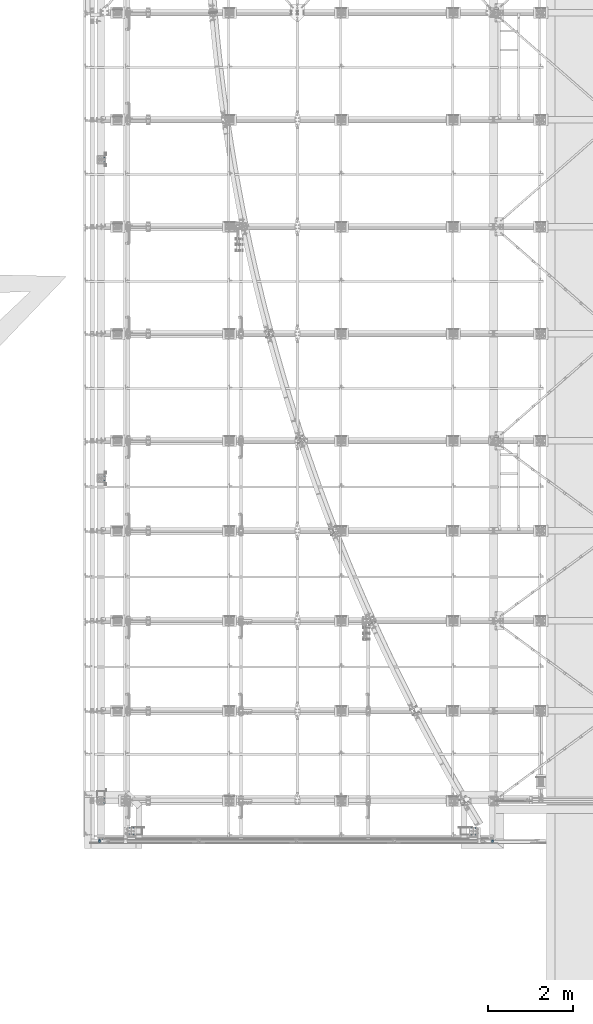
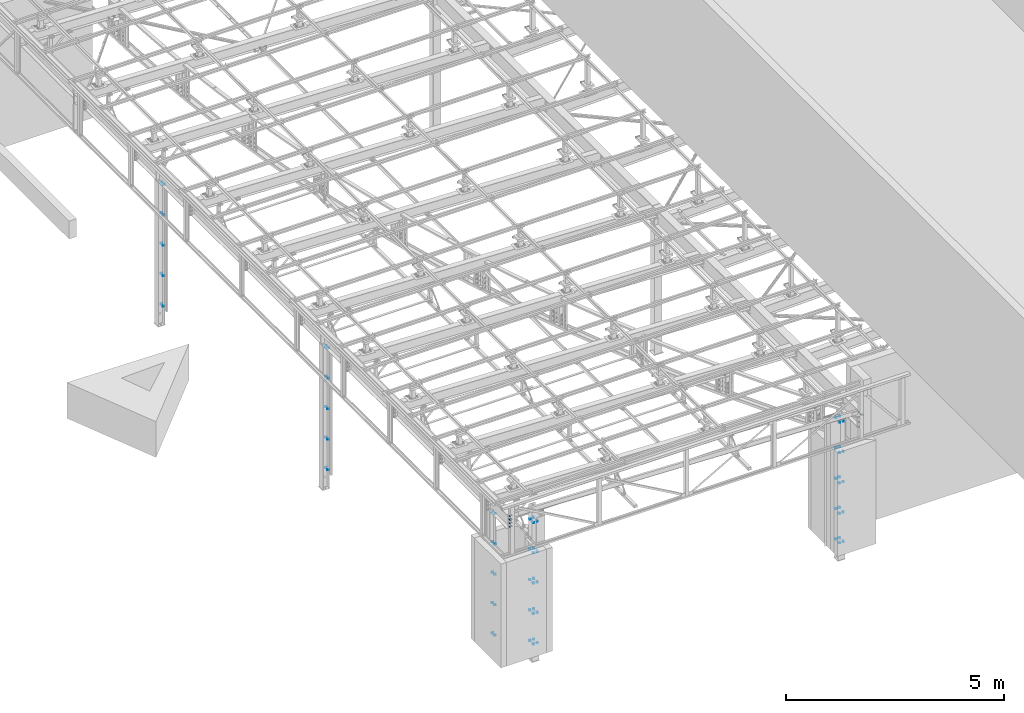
# One storey, part 1 of 3134: 8 mechanical fasteners, 2 plates, 6 elements without a shape of their own.
"""IFC2X3 building model written with IfcOpenShell, lengths in millimetres."""

from ifc_helpers import new_model, si_unit, frame, origin_with_axes, place, context, subcontext, project, spatial, faceted_brep, source, transform, mapped, material, type_object, element, aggregate, save


model = new_model("IFC2X3")

# Units and contexts
model_context = context("Model", 3, precision=1e-05, world=origin_with_axes())
body_context = subcontext(model_context, "Body", "Model", "MODEL_VIEW")
ifc_project = project(units=[si_unit("LENGTHUNIT", "METRE", prefix="MILLI"), si_unit("AREAUNIT", "SQUARE_METRE"), si_unit("VOLUMEUNIT", "CUBIC_METRE"), si_unit("MASSUNIT", "GRAM", prefix="KILO"), si_unit("TIMEUNIT", "SECOND"), si_unit("PLANEANGLEUNIT", "RADIAN"), si_unit("SOLIDANGLEUNIT", "STERADIAN"), si_unit("THERMODYNAMICTEMPERATUREUNIT", "DEGREE_CELSIUS"), si_unit("LUMINOUSINTENSITYUNIT", "LUMEN")], contexts=[model_context])

# Site, building, storey
site_placement = place(None, origin_with_axes())
site = spatial("IfcSite", under=ifc_project, at=site_placement, CompositionType="ELEMENT")
building_placement = place(site_placement, origin_with_axes())
building = spatial("IfcBuilding", under=site, at=building_placement, Name="Undefined", CompositionType="ELEMENT")
storey_placement = place(building_placement, origin_with_axes())
storey = spatial("IfcBuildingStorey", under=building, at=storey_placement, Name="Undefined", CompositionType="ELEMENT", Elevation=0.0)

# Assembly, plates
assembly_1_placement = place(storey_placement, origin_with_axes())
assembly_1 = element("IfcElementAssembly", 1, at=assembly_1_placement, inside=storey, Name="UPN100", AssemblyPlace="NOTDEFINED", PredefinedType="RIGID_FRAME")
ifc_material_1 = material(Name="STEEL/S235JR")
plate_type = type_object("IfcPlateType", Name="PL8*45", PredefinedType="NOTDEFINED")
plate_1_placement = place(assembly_1_placement, frame((-2.50000000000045, 10017.5, 3920.0), z_axis=(-1.0, 0.0, 0.0), x_axis=(0.0, -1.0, 0.0)))
plate_1 = element("IfcPlate", 2, at=plate_1_placement, type_object=plate_type, material=ifc_material_1, Name="TOLE", ObjectType="PL8*45", context=body_context, shape_type="Brep", body=[
    faceted_brep([(0.0, -4.0, 15.0), (0.0, -4.0, 45.0), (0.0, 4.0, 45.0), (0.0, 4.0, 15.0), (79.0, -4.0, 45.0), (79.0, 4.0, 45.0), (79.0, -4.0, 15.0), (79.0, 4.0, 15.0), (64.0, -4.0, 0.0), (64.0, 4.0, 0.0), (15.0, -4.0, 0.0), (15.0, 4.0, 0.0)], [[[0, 1, 2, 3]], [[1, 4, 5, 2]], [[4, 6, 7, 5]], [[6, 8, 9, 7]], [[8, 10, 11, 9]], [[10, 0, 3, 11]], [[5, 7, 9, 11, 3, 2]], [[10, 8, 6, 4, 1, 0]]]),
])
plate_2_placement = place(assembly_1_placement, frame((9237.1, 10017.5, 3609.67), z_axis=(1.0, 0.0, 0.0), x_axis=(0.0, -1.0, 0.0)))
plate_2 = element("IfcPlate", 3, at=plate_2_placement, type_object=plate_type, material=ifc_material_1, Name="TOLE", ObjectType="PL8*45", context=body_context, shape_type="Brep", body=[
    faceted_brep([(0.0, -4.0, 15.0), (0.0, -4.0, 45.0), (0.0, 4.0, 45.0), (0.0, 4.0, 15.0), (79.0, -4.0, 45.0), (79.0, 4.0, 45.0), (79.0, -4.0, 15.0), (79.0, 4.0, 15.0), (64.0, -4.0, 0.0), (64.0, 4.0, 0.0), (15.0, -4.0, 0.0), (15.0, 4.0, 0.0)], [[[0, 1, 2, 3]], [[1, 4, 5, 2]], [[4, 6, 7, 5]], [[6, 8, 9, 7]], [[8, 10, 11, 9]], [[10, 0, 3, 11]], [[5, 7, 9, 11, 3, 2]], [[10, 8, 6, 4, 1, 0]]]),
])

# Assembly, mechanical fasteners
assembly_2_placement = place(storey_placement, origin_with_axes())
assembly_2 = element("IfcElementAssembly", 4, at=assembly_2_placement, inside=storey, Name="HEA180", AssemblyPlace="NOTDEFINED", PredefinedType="RIGID_FRAME")
ifc_material_2 = material(Name="8.8")
mechanical_fastener_type = type_object("IfcMechanicalFastenerType", Name="Bolt assembly")
shared_shape_1 = source(origin_with_axes(), body_context, "Body", "Brep", [
    faceted_brep([(10.9696551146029, -17.5, 0.0), (5.48482755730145, -17.5, 9.5), (-5.48482755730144, -17.5, 9.5), (-10.9696551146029, -17.5, 1.34339530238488e-15), (-5.48482755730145, -17.5, -9.5), (5.48482755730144, -17.5, -9.50000000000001), (5.48482755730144, -9.5, -9.50000000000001), (-5.48482755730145, -9.5, -9.5), (-10.9696551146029, -9.5, 1.34339530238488e-15), (-5.48482755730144, -9.5, 9.5), (5.48482755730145, -9.5, 9.5), (10.9696551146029, -9.5, 0.0), (6.0, -9.5, 0.0), (5.19615242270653, -9.5, 3.00000000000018), (2.99999999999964, -9.5, 5.19615242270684), (-6.21801588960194e-13, -9.5, 6.0), (-3.00000000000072, -9.5, 5.19615242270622), (-5.19615242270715, -9.5, 2.9999999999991), (-6.0, -9.5, -1.24360317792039e-12), (-5.19615242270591, -9.5, -3.00000000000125), (-2.99999999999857, -9.5, -5.19615242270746), (1.85874342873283e-12, -9.5, -6.0), (3.00000000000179, -9.5, -5.1961524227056), (5.19615242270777, -9.5, -2.99999999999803), (5.19615242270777, 15.5, -2.99999999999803), (3.00000000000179, 15.5, -5.1961524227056), (1.85874342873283e-12, 15.5, -6.0), (-2.99999999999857, 15.5, -5.19615242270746), (-5.19615242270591, 15.5, -3.00000000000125), (-6.0, 15.5, -1.24360317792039e-12), (-5.19615242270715, 15.5, 2.9999999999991), (-3.00000000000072, 15.5, 5.19615242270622), (-6.21801588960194e-13, 15.5, 6.0), (2.99999999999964, 15.5, 5.19615242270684), (5.19615242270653, 15.5, 3.00000000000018), (6.0, 15.5, 0.0), (10.9696551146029, 0.0, 0.0), (5.48482755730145, 0.0, 9.5), (-5.48482755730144, 0.0, 9.5), (-10.9696551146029, 0.0, 1.34339530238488e-15), (-5.48482755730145, 0.0, -9.5), (5.48482755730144, 0.0, -9.50000000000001), (5.48482755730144, 10.0, -9.50000000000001), (-5.48482755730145, 10.0, -9.5), (-10.9696551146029, 10.0, 1.34339530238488e-15), (-5.48482755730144, 10.0, 9.5), (5.48482755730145, 10.0, 9.5), (10.9696551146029, 10.0, 0.0)], [[[0, 1, 2, 3, 4, 5]], [[6, 7, 8, 9, 10, 11]], [[0, 11, 10, 1]], [[1, 10, 9, 2]], [[2, 9, 8, 3]], [[3, 8, 7, 4]], [[4, 7, 6, 5]], [[5, 6, 11, 0]], [[12, 13, 14, 15, 16, 17, 18, 19, 20, 21, 22, 23]], [[24, 25, 26, 27, 28, 29, 30, 31, 32, 33, 34, 35]], [[12, 35, 34, 13]], [[13, 34, 33, 14]], [[14, 33, 32, 15]], [[15, 32, 31, 16]], [[16, 31, 30, 17]], [[17, 30, 29, 18]], [[18, 29, 28, 19]], [[19, 28, 27, 20]], [[20, 27, 26, 21]], [[21, 26, 25, 22]], [[22, 25, 24, 23]], [[23, 24, 35, 12]], [[36, 37, 38, 39, 40, 41]], [[42, 43, 44, 45, 46, 47]], [[36, 47, 46, 37]], [[37, 46, 45, 38]], [[38, 45, 44, 39]], [[39, 44, 43, 40]], [[40, 43, 42, 41]], [[41, 42, 47, 36]]]),
    faceted_brep([(7.0, -9.5, 0.0), (6.06217782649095, -9.5, 3.50000000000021), (3.49999999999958, -9.5, 6.06217782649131), (-7.25435187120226e-13, -9.5, 7.0), (-3.50000000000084, -9.5, 6.06217782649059), (-6.06217782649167, -9.5, 3.49999999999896), (-7.0, -9.5, -1.45087037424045e-12), (-6.06217782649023, -9.5, -3.50000000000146), (-3.49999999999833, -9.5, -6.06217782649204), (2.1685340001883e-12, -9.5, -7.0), (3.50000000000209, -9.5, -6.06217782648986), (6.0621778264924, -9.5, -3.4999999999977), (6.0621778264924, 0.0999999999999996, -3.4999999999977), (3.50000000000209, 0.0999999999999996, -6.06217782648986), (2.1685340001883e-12, 0.0999999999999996, -7.0), (-3.49999999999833, 0.0999999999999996, -6.06217782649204), (-6.06217782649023, 0.0999999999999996, -3.50000000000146), (-7.0, 0.0999999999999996, -1.45087037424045e-12), (-6.06217782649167, 0.0999999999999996, 3.49999999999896), (-3.50000000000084, 0.0999999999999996, 6.06217782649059), (-7.25435187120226e-13, 0.0999999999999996, 7.0), (3.49999999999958, 0.0999999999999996, 6.06217782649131), (6.06217782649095, 0.0999999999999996, 3.50000000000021), (7.0, 0.0999999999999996, 0.0)], [[[0, 1, 2, 3, 4, 5, 6, 7, 8, 9, 10, 11]], [[12, 13, 14, 15, 16, 17, 18, 19, 20, 21, 22, 23]], [[0, 23, 22, 1]], [[1, 22, 21, 2]], [[2, 21, 20, 3]], [[3, 20, 19, 4]], [[4, 19, 18, 5]], [[5, 18, 17, 6]], [[6, 17, 16, 7]], [[7, 16, 15, 8]], [[8, 15, 14, 9]], [[9, 14, 13, 10]], [[10, 13, 12, 11]], [[11, 12, 23, 0]]]),
])
mechanical_fastener_1_placement = place(assembly_2_placement, frame((8810.0, 10129.5, 3470.0), z_axis=(-1.0, 0.0, 0.0), x_axis=(0.0, 0.0, -1.0)))
mechanical_fastener_1 = element("IfcMechanicalFastener", 5, at=mechanical_fastener_1_placement, type_object=mechanical_fastener_type, material=ifc_material_2, Name="Bolt assembly", NominalDiameter=12.0, NominalLength=25.0, context=body_context, shape_type="MappedRepresentation", body=[
    mapped(shared_shape_1, transform((0.0, 0.0, -50.0))),
    mapped(shared_shape_1, transform((850.0, 0.0, -50.0))),
    mapped(shared_shape_1, transform((1700.0, 0.0, -50.0))),
    mapped(shared_shape_1, transform((2550.0, 0.0, -50.0))),
    mapped(shared_shape_1, transform((3370.0, 0.0, -50.0))),
    mapped(shared_shape_1, transform((0.0, 0.0, 50.0))),
    mapped(shared_shape_1, transform((850.0, 0.0, 50.0))),
    mapped(shared_shape_1, transform((1700.0, 0.0, 50.0))),
    mapped(shared_shape_1, transform((2550.0, 0.0, 50.0))),
    mapped(shared_shape_1, transform((3370.0, 0.0, 50.0))),
])
mechanical_fastener_2_placement = place(assembly_2_placement, frame((8810.0, 10300.5, 3500.0), z_axis=(1.0, 0.0, 0.0), x_axis=(0.0, 0.0, -1.0)))
mechanical_fastener_2 = element("IfcMechanicalFastener", 6, at=mechanical_fastener_2_placement, type_object=mechanical_fastener_type, material=ifc_material_2, Name="Bolt assembly", NominalDiameter=12.0, NominalLength=25.0, context=body_context, shape_type="MappedRepresentation", body=[
    mapped(shared_shape_1, transform((0.0, 0.0, -50.0))),
    mapped(shared_shape_1, transform((850.0, 0.0, -50.0))),
    mapped(shared_shape_1, transform((1700.0, 0.0, -50.0))),
    mapped(shared_shape_1, transform((2550.0, 0.0, -50.0))),
    mapped(shared_shape_1, transform((3400.0, 0.0, -50.0))),
    mapped(shared_shape_1, transform((0.0, 0.0, 50.0))),
    mapped(shared_shape_1, transform((850.0, 0.0, 50.0))),
    mapped(shared_shape_1, transform((1700.0, 0.0, 50.0))),
    mapped(shared_shape_1, transform((2550.0, 0.0, 50.0))),
    mapped(shared_shape_1, transform((3400.0, 0.0, 50.0))),
])
aggregate(assembly_2, [mechanical_fastener_1, mechanical_fastener_2])

# Assembly, mechanical fastener
assembly_3_placement = place(storey_placement, origin_with_axes())
assembly_3 = element("IfcElementAssembly", 7, at=assembly_3_placement, inside=storey, Name="HEA180", AssemblyPlace="NOTDEFINED", PredefinedType="RIGID_FRAME")
shared_shape_2 = source(origin_with_axes(), body_context, "Body", "Brep", [
    faceted_brep([(10.9696551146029, -8.0, 0.0), (5.48482755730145, -8.0, 9.5), (-5.48482755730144, -8.0, 9.5), (-10.9696551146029, -8.0, 1.34339530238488e-15), (-5.48482755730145, -8.0, -9.5), (5.48482755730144, -8.0, -9.50000000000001), (5.48482755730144, 0.0, -9.50000000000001), (-5.48482755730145, 0.0, -9.5), (-10.9696551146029, 0.0, 1.34339530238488e-15), (-5.48482755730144, 0.0, 9.5), (5.48482755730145, 0.0, 9.5), (10.9696551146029, 0.0, 0.0), (6.0, 0.0, 0.0), (5.19615242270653, 0.0, 3.00000000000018), (2.99999999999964, 0.0, 5.19615242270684), (-6.21801588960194e-13, 0.0, 6.0), (-3.00000000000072, 0.0, 5.19615242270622), (-5.19615242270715, 0.0, 2.9999999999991), (-6.0, 0.0, -1.24360317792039e-12), (-5.19615242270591, 0.0, -3.00000000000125), (-2.99999999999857, 0.0, -5.19615242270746), (1.85874342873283e-12, 0.0, -6.0), (3.00000000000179, 0.0, -5.1961524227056), (5.19615242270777, 0.0, -2.99999999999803), (5.19615242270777, 24.9999999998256, -2.99999999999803), (3.00000000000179, 24.9999999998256, -5.1961524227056), (1.85874342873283e-12, 24.9999999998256, -6.0), (-2.99999999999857, 24.9999999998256, -5.19615242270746), (-5.19615242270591, 24.9999999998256, -3.00000000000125), (-6.0, 24.9999999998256, -1.24360317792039e-12), (-5.19615242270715, 24.9999999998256, 2.9999999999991), (-3.00000000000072, 24.9999999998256, 5.19615242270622), (-6.21801588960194e-13, 24.9999999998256, 6.0), (2.99999999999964, 24.9999999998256, 5.19615242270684), (5.19615242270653, 24.9999999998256, 3.00000000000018), (6.0, 24.9999999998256, 0.0), (10.9696551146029, 9.5, 0.0), (5.48482755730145, 9.5, 9.5), (-5.48482755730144, 9.5, 9.5), (-10.9696551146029, 9.5, 1.34339530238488e-15), (-5.48482755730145, 9.5, -9.5), (5.48482755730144, 9.5, -9.50000000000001), (5.48482755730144, 19.5, -9.50000000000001), (-5.48482755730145, 19.5, -9.5), (-10.9696551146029, 19.5, 1.34339530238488e-15), (-5.48482755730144, 19.5, 9.5), (5.48482755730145, 19.5, 9.5), (10.9696551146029, 19.5, 0.0)], [[[0, 1, 2, 3, 4, 5]], [[6, 7, 8, 9, 10, 11]], [[0, 11, 10, 1]], [[1, 10, 9, 2]], [[2, 9, 8, 3]], [[3, 8, 7, 4]], [[4, 7, 6, 5]], [[5, 6, 11, 0]], [[12, 13, 14, 15, 16, 17, 18, 19, 20, 21, 22, 23]], [[24, 25, 26, 27, 28, 29, 30, 31, 32, 33, 34, 35]], [[12, 35, 34, 13]], [[13, 34, 33, 14]], [[14, 33, 32, 15]], [[15, 32, 31, 16]], [[16, 31, 30, 17]], [[17, 30, 29, 18]], [[18, 29, 28, 19]], [[19, 28, 27, 20]], [[20, 27, 26, 21]], [[21, 26, 25, 22]], [[22, 25, 24, 23]], [[23, 24, 35, 12]], [[36, 37, 38, 39, 40, 41]], [[42, 43, 44, 45, 46, 47]], [[36, 47, 46, 37]], [[37, 46, 45, 38]], [[38, 45, 44, 39]], [[39, 44, 43, 40]], [[40, 43, 42, 41]], [[41, 42, 47, 36]]]),
    faceted_brep([(7.0, 0.0, 0.0), (6.06217782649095, 0.0, 3.50000000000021), (3.49999999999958, 0.0, 6.06217782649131), (-7.25435187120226e-13, 0.0, 7.0), (-3.50000000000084, 0.0, 6.06217782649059), (-6.06217782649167, 0.0, 3.49999999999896), (-7.0, 0.0, -1.45087037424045e-12), (-6.06217782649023, 0.0, -3.50000000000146), (-3.49999999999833, 0.0, -6.06217782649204), (2.1685340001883e-12, 0.0, -7.0), (3.50000000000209, 0.0, -6.06217782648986), (6.0621778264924, 0.0, -3.4999999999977), (6.0621778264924, 9.6, -3.4999999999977), (3.50000000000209, 9.6, -6.06217782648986), (2.1685340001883e-12, 9.6, -7.0), (-3.49999999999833, 9.6, -6.06217782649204), (-6.06217782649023, 9.6, -3.50000000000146), (-7.0, 9.6, -1.45087037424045e-12), (-6.06217782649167, 9.6, 3.49999999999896), (-3.50000000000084, 9.6, 6.06217782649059), (-7.25435187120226e-13, 9.6, 7.0), (3.49999999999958, 9.6, 6.06217782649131), (6.06217782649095, 9.6, 3.50000000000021), (7.0, 9.6, 0.0)], [[[0, 1, 2, 3, 4, 5, 6, 7, 8, 9, 10, 11]], [[12, 13, 14, 15, 16, 17, 18, 19, 20, 21, 22, 23]], [[0, 23, 22, 1]], [[1, 22, 21, 2]], [[2, 21, 20, 3]], [[3, 20, 19, 4]], [[4, 19, 18, 5]], [[5, 18, 17, 6]], [[6, 17, 16, 7]], [[7, 16, 15, 8]], [[8, 15, 14, 9]], [[9, 14, 13, 10]], [[10, 13, 12, 11]], [[11, 12, 23, 0]]]),
])
mechanical_fastener_3_placement = place(assembly_3_placement, frame((720.0, 10129.5, 3500.0), z_axis=(1.0, 0.0, 0.0), x_axis=(0.0, 0.0, -1.0)))
mechanical_fastener_3 = element("IfcMechanicalFastener", 8, at=mechanical_fastener_3_placement, type_object=mechanical_fastener_type, material=ifc_material_2, Name="Bolt assembly", NominalDiameter=12.0, NominalLength=25.0, context=body_context, shape_type="MappedRepresentation", body=[
    mapped(shared_shape_2, transform((0.0, 0.0, -50.0))),
    mapped(shared_shape_2, transform((850.0, 0.0, -50.0))),
    mapped(shared_shape_2, transform((1700.0, 0.0, -50.0))),
    mapped(shared_shape_2, transform((2550.0, 0.0, -50.0))),
    mapped(shared_shape_2, transform((3400.0, 0.0, -50.0))),
    mapped(shared_shape_2, transform((0.0, 0.0, 50.0))),
    mapped(shared_shape_2, transform((850.0, 0.0, 50.0))),
    mapped(shared_shape_2, transform((1700.0, 0.0, 50.0))),
    mapped(shared_shape_2, transform((2550.0, 0.0, 50.0))),
    mapped(shared_shape_2, transform((3400.0, 0.0, 50.0))),
])

assembly_4_placement = place(storey_placement, origin_with_axes())
assembly_4 = element("IfcElementAssembly", 9, at=assembly_4_placement, inside=storey, Name="HEA180", AssemblyPlace="NOTDEFINED", PredefinedType="RIGID_FRAME")
mechanical_fastener_4_placement = place(assembly_4_placement, frame((85.5, 10930.0, 3500.0), z_axis=(0.0, 1.0, 0.0), x_axis=(0.0, 0.0, -1.0)))
mechanical_fastener_4 = element("IfcMechanicalFastener", 10, at=mechanical_fastener_4_placement, type_object=mechanical_fastener_type, material=ifc_material_2, Name="Bolt assembly", NominalDiameter=12.0, NominalLength=25.0, context=body_context, shape_type="MappedRepresentation", body=[
    mapped(shared_shape_2, transform((0.0, 0.0, -50.0))),
    mapped(shared_shape_2, transform((850.0, 0.0, -50.0))),
    mapped(shared_shape_2, transform((1700.0, 0.0, -50.0))),
    mapped(shared_shape_2, transform((2550.0, 0.0, -50.0))),
    mapped(shared_shape_2, transform((3400.0, 0.0, -50.0))),
    mapped(shared_shape_2, transform((0.0, 0.0, 50.0))),
    mapped(shared_shape_2, transform((850.0, 0.0, 50.0))),
    mapped(shared_shape_2, transform((1700.0, 0.0, 50.0))),
    mapped(shared_shape_2, transform((2550.0, 0.0, 50.0))),
    mapped(shared_shape_2, transform((3400.0, 0.0, 50.0))),
])
aggregate(assembly_4, [mechanical_fastener_4])

# Mechanical fastener
mechanical_fastener_5_placement = place(assembly_3_placement, frame((720.0, 10300.5, 3500.0), z_axis=(-1.0, 0.0, 0.0), x_axis=(0.0, 0.0, -1.0)))
mechanical_fastener_5 = element("IfcMechanicalFastener", 11, at=mechanical_fastener_5_placement, type_object=mechanical_fastener_type, material=ifc_material_2, Name="Bolt assembly", NominalDiameter=12.0, NominalLength=25.0, context=body_context, shape_type="MappedRepresentation", body=[
    mapped(shared_shape_2, transform((0.0, 0.0, -50.0))),
    mapped(shared_shape_2, transform((850.0, 0.0, -50.0))),
    mapped(shared_shape_2, transform((1700.0, 0.0, -50.0))),
    mapped(shared_shape_2, transform((2550.0, 0.0, -50.0))),
    mapped(shared_shape_2, transform((3400.0, 0.0, -50.0))),
    mapped(shared_shape_2, transform((0.0, 0.0, 50.0))),
    mapped(shared_shape_2, transform((850.0, 0.0, 50.0))),
    mapped(shared_shape_2, transform((1700.0, 0.0, 50.0))),
    mapped(shared_shape_2, transform((2550.0, 0.0, 50.0))),
    mapped(shared_shape_2, transform((3400.0, 0.0, 50.0))),
])

aggregate(assembly_3, [mechanical_fastener_3, mechanical_fastener_5])

# Assembly, mechanical fastener
assembly_5_placement = place(storey_placement, origin_with_axes())
assembly_5 = element("IfcElementAssembly", 12, at=assembly_5_placement, inside=storey, AssemblyPlace="NOTDEFINED", PredefinedType="RIGID_FRAME")
shared_shape_3 = source(origin_with_axes(), body_context, "Body", "Brep", [
    faceted_brep([(10.9696551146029, -11.0, 0.0), (5.48482755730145, -11.0, 9.5), (-5.48482755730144, -11.0, 9.5), (-10.9696551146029, -11.0, 1.34339530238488e-15), (-5.48482755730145, -11.0, -9.5), (5.48482755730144, -11.0, -9.50000000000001), (5.48482755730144, -3.0, -9.50000000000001), (-5.48482755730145, -3.0, -9.5), (-10.9696551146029, -3.0, 1.34339530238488e-15), (-5.48482755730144, -3.0, 9.5), (5.48482755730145, -3.0, 9.5), (10.9696551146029, -3.0, 0.0), (6.0, -3.0, 0.0), (5.19615242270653, -3.0, 3.00000000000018), (2.99999999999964, -3.0, 5.19615242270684), (-6.21801588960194e-13, -3.0, 6.0), (-3.00000000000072, -3.0, 5.19615242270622), (-5.19615242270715, -3.0, 2.9999999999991), (-6.0, -3.0, -1.24360317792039e-12), (-5.19615242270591, -3.0, -3.00000000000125), (-2.99999999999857, -3.0, -5.19615242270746), (1.85874342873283e-12, -3.0, -6.0), (3.00000000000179, -3.0, -5.1961524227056), (5.19615242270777, -3.0, -2.99999999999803), (5.19615242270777, 27.0, -2.99999999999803), (3.00000000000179, 27.0, -5.1961524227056), (1.85874342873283e-12, 27.0, -6.0), (-2.99999999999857, 27.0, -5.19615242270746), (-5.19615242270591, 27.0, -3.00000000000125), (-6.0, 27.0, -1.24360317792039e-12), (-5.19615242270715, 27.0, 2.9999999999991), (-3.00000000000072, 27.0, 5.19615242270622), (-6.21801588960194e-13, 27.0, 6.0), (2.99999999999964, 27.0, 5.19615242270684), (5.19615242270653, 27.0, 3.00000000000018), (6.0, 27.0, 0.0), (10.9696551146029, 9.5, 0.0), (5.48482755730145, 9.5, 9.5), (-5.48482755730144, 9.5, 9.5), (-10.9696551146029, 9.5, 1.34339530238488e-15), (-5.48482755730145, 9.5, -9.5), (5.48482755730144, 9.5, -9.50000000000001), (5.48482755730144, 19.5, -9.50000000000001), (-5.48482755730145, 19.5, -9.5), (-10.9696551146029, 19.5, 1.34339530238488e-15), (-5.48482755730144, 19.5, 9.5), (5.48482755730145, 19.5, 9.5), (10.9696551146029, 19.5, 0.0)], [[[0, 1, 2, 3, 4, 5]], [[6, 7, 8, 9, 10, 11]], [[0, 11, 10, 1]], [[1, 10, 9, 2]], [[2, 9, 8, 3]], [[3, 8, 7, 4]], [[4, 7, 6, 5]], [[5, 6, 11, 0]], [[12, 13, 14, 15, 16, 17, 18, 19, 20, 21, 22, 23]], [[24, 25, 26, 27, 28, 29, 30, 31, 32, 33, 34, 35]], [[12, 35, 34, 13]], [[13, 34, 33, 14]], [[14, 33, 32, 15]], [[15, 32, 31, 16]], [[16, 31, 30, 17]], [[17, 30, 29, 18]], [[18, 29, 28, 19]], [[19, 28, 27, 20]], [[20, 27, 26, 21]], [[21, 26, 25, 22]], [[22, 25, 24, 23]], [[23, 24, 35, 12]], [[36, 37, 38, 39, 40, 41]], [[42, 43, 44, 45, 46, 47]], [[36, 47, 46, 37]], [[37, 46, 45, 38]], [[38, 45, 44, 39]], [[39, 44, 43, 40]], [[40, 43, 42, 41]], [[41, 42, 47, 36]]]),
    faceted_brep([(7.0, -0.1, 0.0), (6.06217782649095, -0.1, 3.50000000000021), (3.49999999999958, -0.1, 6.06217782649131), (-7.25435187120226e-13, -0.1, 7.0), (-3.50000000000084, -0.1, 6.06217782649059), (-6.06217782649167, -0.1, 3.49999999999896), (-7.0, -0.1, -1.45087037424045e-12), (-6.06217782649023, -0.1, -3.50000000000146), (-3.49999999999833, -0.1, -6.06217782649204), (2.1685340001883e-12, -0.1, -7.0), (3.50000000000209, -0.1, -6.06217782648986), (6.0621778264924, -0.1, -3.4999999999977), (6.0621778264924, 9.5, -3.4999999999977), (3.50000000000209, 9.5, -6.06217782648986), (2.1685340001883e-12, 9.5, -7.0), (-3.49999999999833, 9.5, -6.06217782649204), (-6.06217782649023, 9.5, -3.50000000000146), (-7.0, 9.5, -1.45087037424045e-12), (-6.06217782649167, 9.5, 3.49999999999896), (-3.50000000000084, 9.5, 6.06217782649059), (-7.25435187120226e-13, 9.5, 7.0), (3.49999999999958, 9.5, 6.06217782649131), (6.06217782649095, 9.5, 3.50000000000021), (7.0, 9.5, 0.0), (7.0, -2.9, 0.0), (6.06217782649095, -2.9, 3.50000000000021), (3.49999999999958, -2.9, 6.06217782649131), (-7.25435187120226e-13, -2.9, 7.0), (-3.50000000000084, -2.9, 6.06217782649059), (-6.06217782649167, -2.9, 3.49999999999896), (-7.0, -2.9, -1.45087037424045e-12), (-6.06217782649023, -2.9, -3.50000000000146), (-3.49999999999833, -2.9, -6.06217782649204), (2.1685340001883e-12, -2.9, -7.0), (3.50000000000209, -2.9, -6.06217782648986), (6.0621778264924, -2.9, -3.4999999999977), (6.0621778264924, 0.0999999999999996, -3.4999999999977), (3.50000000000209, 0.0999999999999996, -6.06217782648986), (2.1685340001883e-12, 0.0999999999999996, -7.0), (-3.49999999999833, 0.0999999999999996, -6.06217782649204), (-6.06217782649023, 0.0999999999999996, -3.50000000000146), (-7.0, 0.0999999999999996, -1.45087037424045e-12), (-6.06217782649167, 0.0999999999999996, 3.49999999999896), (-3.50000000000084, 0.0999999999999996, 6.06217782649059), (-7.25435187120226e-13, 0.0999999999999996, 7.0), (3.49999999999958, 0.0999999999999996, 6.06217782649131), (6.06217782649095, 0.0999999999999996, 3.50000000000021), (7.0, 0.0999999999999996, 0.0)], [[[0, 1, 2, 3, 4, 5, 6, 7, 8, 9, 10, 11]], [[12, 13, 14, 15, 16, 17, 18, 19, 20, 21, 22, 23]], [[0, 23, 22, 1]], [[1, 22, 21, 2]], [[2, 21, 20, 3]], [[3, 20, 19, 4]], [[4, 19, 18, 5]], [[5, 18, 17, 6]], [[6, 17, 16, 7]], [[7, 16, 15, 8]], [[8, 15, 14, 9]], [[9, 14, 13, 10]], [[10, 13, 12, 11]], [[11, 12, 23, 0]], [[24, 25, 26, 27, 28, 29, 30, 31, 32, 33, 34, 35]], [[36, 37, 38, 39, 40, 41, 42, 43, 44, 45, 46, 47]], [[24, 47, 46, 25]], [[25, 46, 45, 26]], [[26, 45, 44, 27]], [[27, 44, 43, 28]], [[28, 43, 42, 29]], [[29, 42, 41, 30]], [[30, 41, 40, 31]], [[31, 40, 39, 32]], [[32, 39, 38, 33]], [[33, 38, 37, 34]], [[34, 37, 36, 35]], [[35, 36, 47, 24]]]),
])
mechanical_fastener_6_placement = place(assembly_5_placement, frame((85.5, 18560.0, 3500.0), z_axis=(0.0, 1.0, 0.0), x_axis=(0.0, 0.0, -1.0)))
mechanical_fastener_6 = element("IfcMechanicalFastener", 13, at=mechanical_fastener_6_placement, type_object=mechanical_fastener_type, material=ifc_material_2, Name="Bolt assembly", NominalDiameter=12.0, NominalLength=30.0, context=body_context, shape_type="MappedRepresentation", body=[
    mapped(shared_shape_3, transform((0.0, 0.0, -50.0))),
    mapped(shared_shape_3, transform((850.0, 0.0, -50.0))),
    mapped(shared_shape_3, transform((1700.0, 0.0, -50.0))),
    mapped(shared_shape_3, transform((2550.0, 0.0, -50.0))),
    mapped(shared_shape_3, transform((3400.0, 0.0, -50.0))),
    mapped(shared_shape_3, transform((0.0, 0.0, 50.0))),
    mapped(shared_shape_3, transform((850.0, 0.0, 50.0))),
    mapped(shared_shape_3, transform((1700.0, 0.0, 50.0))),
    mapped(shared_shape_3, transform((2550.0, 0.0, 50.0))),
    mapped(shared_shape_3, transform((3400.0, 0.0, 50.0))),
])
aggregate(assembly_5, [mechanical_fastener_6])

assembly_6_placement = place(storey_placement, origin_with_axes())
assembly_6 = element("IfcElementAssembly", 14, at=assembly_6_placement, inside=storey, AssemblyPlace="NOTDEFINED", PredefinedType="RIGID_FRAME")
mechanical_fastener_7_placement = place(assembly_6_placement, frame((85.5, 26100.0, 3500.0), z_axis=(0.0, 1.0, 0.0), x_axis=(0.0, 0.0, -1.0)))
mechanical_fastener_7 = element("IfcMechanicalFastener", 15, at=mechanical_fastener_7_placement, type_object=mechanical_fastener_type, material=ifc_material_2, Name="Bolt assembly", NominalDiameter=12.0, NominalLength=30.0, context=body_context, shape_type="MappedRepresentation", body=[
    mapped(shared_shape_3, transform((0.0, 0.0, -50.0))),
    mapped(shared_shape_3, transform((850.0, 0.0, -50.0))),
    mapped(shared_shape_3, transform((1700.0, 0.0, -50.0))),
    mapped(shared_shape_3, transform((2550.0, 0.0, -50.0))),
    mapped(shared_shape_3, transform((3400.0, 0.0, -50.0))),
    mapped(shared_shape_3, transform((0.0, 0.0, 50.0))),
    mapped(shared_shape_3, transform((850.0, 0.0, 50.0))),
    mapped(shared_shape_3, transform((1700.0, 0.0, 50.0))),
    mapped(shared_shape_3, transform((2550.0, 0.0, 50.0))),
    mapped(shared_shape_3, transform((3400.0, 0.0, 50.0))),
])
aggregate(assembly_6, [mechanical_fastener_7])

# Mechanical fastener
shared_shape_4 = source(origin_with_axes(), body_context, "Body", "Brep", [
    faceted_brep([(10.9696551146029, -18.0, 0.0), (5.48482755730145, -18.0, 9.5), (-5.48482755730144, -18.0, 9.5), (-10.9696551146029, -18.0, 1.34339530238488e-15), (-5.48482755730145, -18.0, -9.5), (5.48482755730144, -18.0, -9.50000000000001), (5.48482755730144, -10.0, -9.50000000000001), (-5.48482755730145, -10.0, -9.5), (-10.9696551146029, -10.0, 1.34339530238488e-15), (-5.48482755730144, -10.0, 9.5), (5.48482755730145, -10.0, 9.5), (10.9696551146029, -10.0, 0.0), (6.0, -10.0, 0.0), (5.19615242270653, -10.0, 3.00000000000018), (2.99999999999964, -10.0, 5.19615242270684), (-6.21801588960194e-13, -10.0, 6.0), (-3.00000000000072, -10.0, 5.19615242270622), (-5.19615242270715, -10.0, 2.9999999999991), (-6.0, -10.0, -1.24360317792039e-12), (-5.19615242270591, -10.0, -3.00000000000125), (-2.99999999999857, -10.0, -5.19615242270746), (1.85874342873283e-12, -10.0, -6.0), (3.00000000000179, -10.0, -5.1961524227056), (5.19615242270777, -10.0, -2.99999999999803), (5.19615242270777, 24.9999999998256, -2.99999999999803), (3.00000000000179, 24.9999999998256, -5.1961524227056), (1.85874342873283e-12, 24.9999999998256, -6.0), (-2.99999999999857, 24.9999999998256, -5.19615242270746), (-5.19615242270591, 24.9999999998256, -3.00000000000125), (-6.0, 24.9999999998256, -1.24360317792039e-12), (-5.19615242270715, 24.9999999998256, 2.9999999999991), (-3.00000000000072, 24.9999999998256, 5.19615242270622), (-6.21801588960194e-13, 24.9999999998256, 6.0), (2.99999999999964, 24.9999999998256, 5.19615242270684), (5.19615242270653, 24.9999999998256, 3.00000000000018), (6.0, 24.9999999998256, 0.0), (10.9696551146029, 8.0, 0.0), (5.48482755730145, 8.0, 9.5), (-5.48482755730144, 8.0, 9.5), (-10.9696551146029, 8.0, 1.34339530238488e-15), (-5.48482755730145, 8.0, -9.5), (5.48482755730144, 8.0, -9.50000000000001), (5.48482755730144, 18.0, -9.50000000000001), (-5.48482755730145, 18.0, -9.5), (-10.9696551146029, 18.0, 1.34339530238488e-15), (-5.48482755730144, 18.0, 9.5), (5.48482755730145, 18.0, 9.5), (10.9696551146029, 18.0, 0.0)], [[[0, 1, 2, 3, 4, 5]], [[6, 7, 8, 9, 10, 11]], [[0, 11, 10, 1]], [[1, 10, 9, 2]], [[2, 9, 8, 3]], [[3, 8, 7, 4]], [[4, 7, 6, 5]], [[5, 6, 11, 0]], [[12, 13, 14, 15, 16, 17, 18, 19, 20, 21, 22, 23]], [[24, 25, 26, 27, 28, 29, 30, 31, 32, 33, 34, 35]], [[12, 35, 34, 13]], [[13, 34, 33, 14]], [[14, 33, 32, 15]], [[15, 32, 31, 16]], [[16, 31, 30, 17]], [[17, 30, 29, 18]], [[18, 29, 28, 19]], [[19, 28, 27, 20]], [[20, 27, 26, 21]], [[21, 26, 25, 22]], [[22, 25, 24, 23]], [[23, 24, 35, 12]], [[36, 37, 38, 39, 40, 41]], [[42, 43, 44, 45, 46, 47]], [[36, 47, 46, 37]], [[37, 46, 45, 38]], [[38, 45, 44, 39]], [[39, 44, 43, 40]], [[40, 43, 42, 41]], [[41, 42, 47, 36]]]),
    faceted_brep([(7.0, -9.89999913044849, 0.0), (6.06217782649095, -9.89999913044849, 3.50000000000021), (3.49999999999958, -9.89999913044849, 6.06217782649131), (-7.25435187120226e-13, -9.89999913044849, 7.0), (-3.50000000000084, -9.89999913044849, 6.06217782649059), (-6.06217782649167, -9.89999913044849, 3.49999999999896), (-7.0, -9.89999913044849, -1.45087037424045e-12), (-6.06217782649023, -9.89999913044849, -3.50000000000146), (-3.49999999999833, -9.89999913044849, -6.06217782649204), (2.1685340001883e-12, -9.89999913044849, -7.0), (3.50000000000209, -9.89999913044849, -6.06217782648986), (6.0621778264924, -9.89999913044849, -3.4999999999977), (6.0621778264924, 0.0999999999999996, -3.4999999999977), (3.50000000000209, 0.0999999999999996, -6.06217782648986), (2.1685340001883e-12, 0.0999999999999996, -7.0), (-3.49999999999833, 0.0999999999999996, -6.06217782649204), (-6.06217782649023, 0.0999999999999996, -3.50000000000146), (-7.0, 0.0999999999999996, -1.45087037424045e-12), (-6.06217782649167, 0.0999999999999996, 3.49999999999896), (-3.50000000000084, 0.0999999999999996, 6.06217782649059), (-7.25435187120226e-13, 0.0999999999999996, 7.0), (3.49999999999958, 0.0999999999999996, 6.06217782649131), (6.06217782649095, 0.0999999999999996, 3.50000000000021), (7.0, 0.0999999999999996, 0.0), (7.0, -0.1, 0.0), (6.06217782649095, -0.1, 3.50000000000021), (3.49999999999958, -0.1, 6.06217782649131), (-7.25435187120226e-13, -0.1, 7.0), (-3.50000000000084, -0.1, 6.06217782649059), (-6.06217782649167, -0.1, 3.49999999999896), (-7.0, -0.1, -1.45087037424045e-12), (-6.06217782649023, -0.1, -3.50000000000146), (-3.49999999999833, -0.1, -6.06217782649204), (2.1685340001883e-12, -0.1, -7.0), (3.50000000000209, -0.1, -6.06217782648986), (6.0621778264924, -0.1, -3.4999999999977), (6.0621778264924, 8.0000000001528, -3.4999999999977), (3.50000000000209, 8.0000000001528, -6.06217782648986), (2.1685340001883e-12, 8.0000000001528, -7.0), (-3.49999999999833, 8.0000000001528, -6.06217782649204), (-6.06217782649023, 8.0000000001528, -3.50000000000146), (-7.0, 8.0000000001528, -1.45087037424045e-12), (-6.06217782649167, 8.0000000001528, 3.49999999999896), (-3.50000000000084, 8.0000000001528, 6.06217782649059), (-7.25435187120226e-13, 8.0000000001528, 7.0), (3.49999999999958, 8.0000000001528, 6.06217782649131), (6.06217782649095, 8.0000000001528, 3.50000000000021), (7.0, 8.0000000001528, 0.0)], [[[0, 1, 2, 3, 4, 5, 6, 7, 8, 9, 10, 11]], [[12, 13, 14, 15, 16, 17, 18, 19, 20, 21, 22, 23]], [[0, 23, 22, 1]], [[1, 22, 21, 2]], [[2, 21, 20, 3]], [[3, 20, 19, 4]], [[4, 19, 18, 5]], [[5, 18, 17, 6]], [[6, 17, 16, 7]], [[7, 16, 15, 8]], [[8, 15, 14, 9]], [[9, 14, 13, 10]], [[10, 13, 12, 11]], [[11, 12, 23, 0]], [[24, 25, 26, 27, 28, 29, 30, 31, 32, 33, 34, 35]], [[36, 37, 38, 39, 40, 41, 42, 43, 44, 45, 46, 47]], [[24, 47, 46, 25]], [[25, 46, 45, 26]], [[26, 45, 44, 27]], [[27, 44, 43, 28]], [[28, 43, 42, 29]], [[29, 42, 41, 30]], [[30, 41, 40, 31]], [[31, 40, 39, 32]], [[32, 39, 38, 33]], [[33, 38, 37, 34]], [[34, 37, 36, 35]], [[35, 36, 47, 24]]]),
])
mechanical_fastener_8_placement = place(assembly_1_placement, frame((0.0, 10026.0, 3990.0), z_axis=(-1.0, 0.0, 0.0), x_axis=(0.0, 0.0, -1.0)))
mechanical_fastener_8 = element("IfcMechanicalFastener", 16, at=mechanical_fastener_8_placement, type_object=mechanical_fastener_type, material=ifc_material_2, Name="Bolt assembly", NominalDiameter=12.0, NominalLength=35.0, context=body_context, shape_type="MappedRepresentation", body=[
    mapped(shared_shape_4, transform((0.0, 4.54747350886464e-13, -30.0000000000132))),
    mapped(shared_shape_4, transform((100.0, 0.0, -30.0))),
    mapped(shared_shape_4, transform((200.0, 0.0, -30.0))),
    mapped(shared_shape_4, transform((300.0, 0.0, -30.0))),
    mapped(shared_shape_4, transform((0.0, 4.54747350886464e-13, 30.0000000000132))),
    mapped(shared_shape_4, transform((100.0, 0.0, 30.0))),
    mapped(shared_shape_4, transform((200.0, 0.0, 30.0))),
    mapped(shared_shape_4, transform((300.0, 0.0, 30.0))),
])

aggregate(assembly_1, [plate_1, plate_2, mechanical_fastener_8])

save(model, "model.ifc")
